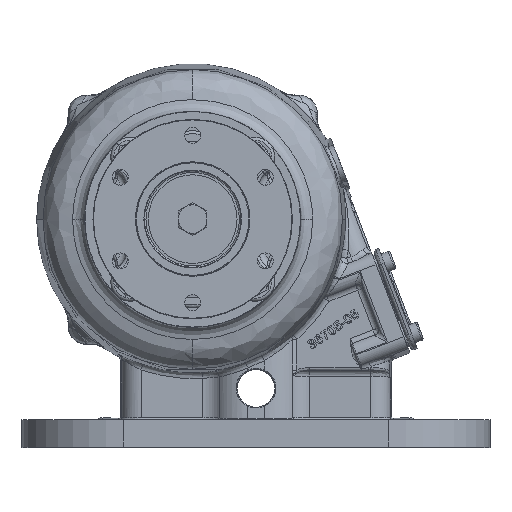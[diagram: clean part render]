
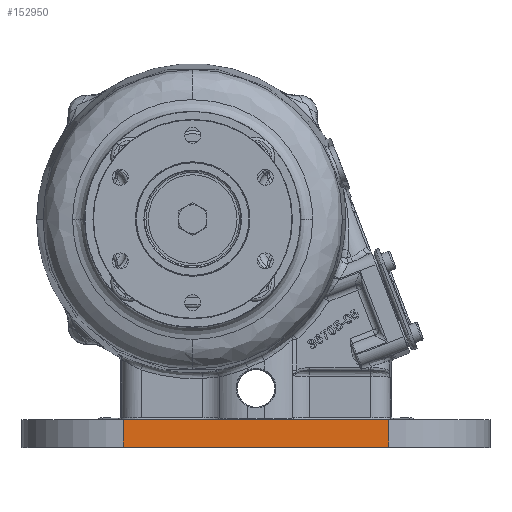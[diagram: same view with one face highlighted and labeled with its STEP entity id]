
A CAD part, top view. The second image highlights one B-rep face of the part: STEP entity #152950.
In plain terms, the highlighted planar face has unit normal (0, 0, 1).
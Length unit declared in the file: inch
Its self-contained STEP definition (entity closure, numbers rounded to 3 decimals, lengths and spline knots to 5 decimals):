
#876 = CARTESIAN_POINT ( 'NONE',  ( 0., -1.165, 3.5 ) ) ;
#4905 = EDGE_CURVE ( 'NONE', #30370, #61560, #79773, .T. ) ;
#9938 = VECTOR ( 'NONE', #119135, 39.37008 ) ;
#13993 = CARTESIAN_POINT ( 'NONE',  ( -2.62, -0.625, 3.5 ) ) ;
#17328 = AXIS2_PLACEMENT_3D ( 'NONE', #196570, #77226, #59814 ) ;
#18261 = LINE ( 'NONE', #876, #9938 ) ;
#19390 = VECTOR ( 'NONE', #97649, 39.37008 ) ;
#24804 = CARTESIAN_POINT ( 'NONE',  ( 2.62, -0.625, 3.5 ) ) ;
#30370 = VERTEX_POINT ( 'NONE', #79337 ) ;
#32537 = DIRECTION ( 'NONE',  ( -1., 0., 0. ) ) ;
#34215 = VECTOR ( 'NONE', #32537, 39.37008 ) ;
#53091 = VERTEX_POINT ( 'NONE', #227607 ) ;
#56367 = PLANE ( 'NONE',  #17328 ) ;
#59814 = DIRECTION ( 'NONE',  ( 0., -1., 0. ) ) ;
#61560 = VERTEX_POINT ( 'NONE', #13993 ) ;
#63319 = ORIENTED_EDGE ( 'NONE', *, *, #221163, .F. ) ;
#73726 = VECTOR ( 'NONE', #186314, 39.37008 ) ;
#77226 = DIRECTION ( 'NONE',  ( 0., 0., 1. ) ) ;
#79337 = CARTESIAN_POINT ( 'NONE',  ( -2.62, -1.165, 3.5 ) ) ;
#79773 = LINE ( 'NONE', #221068, #73726 ) ;
#92471 = EDGE_CURVE ( 'NONE', #169319, #61560, #227145, .T. ) ;
#97649 = DIRECTION ( 'NONE',  ( 0., 1., 0. ) ) ;
#119135 = DIRECTION ( 'NONE',  ( -1., 0., 0. ) ) ;
#120612 = CARTESIAN_POINT ( 'NONE',  ( -2.62, -0.625, 3.5 ) ) ;
#146320 = CARTESIAN_POINT ( 'NONE',  ( 2.62, -0.895, 3.5 ) ) ;
#147899 = ORIENTED_EDGE ( 'NONE', *, *, #4905, .F. ) ;
#152950 = ADVANCED_FACE ( 'NONE', ( #218516 ), #56367, .T. ) ;
#161923 = EDGE_CURVE ( 'NONE', #53091, #169319, #164828, .T. ) ;
#164828 = LINE ( 'NONE', #146320, #19390 ) ;
#169319 = VERTEX_POINT ( 'NONE', #24804 ) ;
#172075 = EDGE_LOOP ( 'NONE', ( #195977, #147899, #63319, #214092 ) ) ;
#186314 = DIRECTION ( 'NONE',  ( 0., 1., 0. ) ) ;
#195977 = ORIENTED_EDGE ( 'NONE', *, *, #92471, .T. ) ;
#196570 = CARTESIAN_POINT ( 'NONE',  ( -2.62, -0.895, 3.5 ) ) ;
#214092 = ORIENTED_EDGE ( 'NONE', *, *, #161923, .T. ) ;
#218516 = FACE_OUTER_BOUND ( 'NONE', #172075, .T. ) ;
#221068 = CARTESIAN_POINT ( 'NONE',  ( -2.62, -0.895, 3.5 ) ) ;
#221163 = EDGE_CURVE ( 'NONE', #53091, #30370, #18261, .T. ) ;
#227145 = LINE ( 'NONE', #120612, #34215 ) ;
#227607 = CARTESIAN_POINT ( 'NONE',  ( 2.62, -1.165, 3.5 ) ) ;
